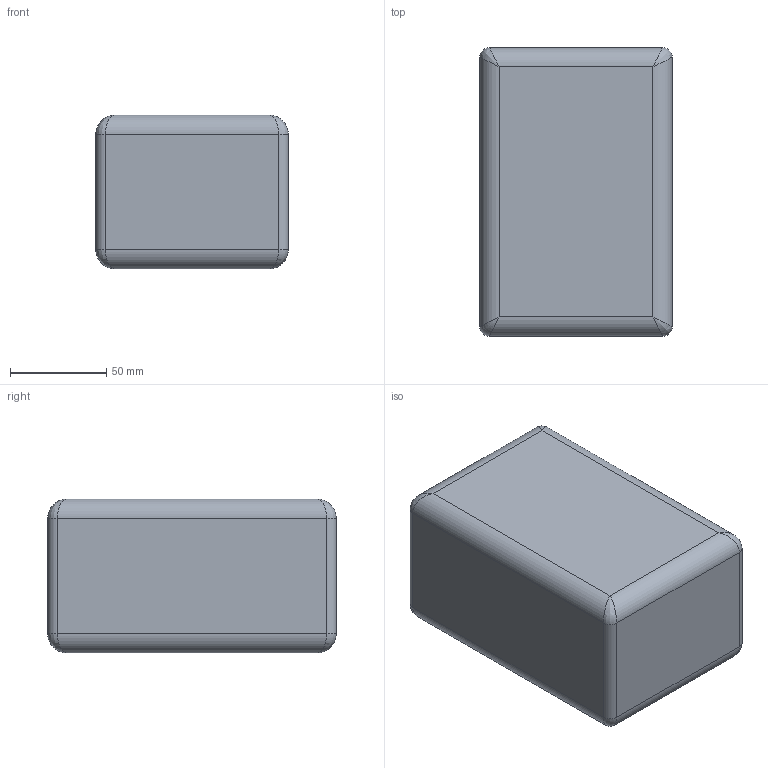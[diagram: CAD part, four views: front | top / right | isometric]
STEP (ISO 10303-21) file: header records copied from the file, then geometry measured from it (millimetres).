
FILE_DESCRIPTION (( 'STEP AP203' ), '1' );
FILE_NAME ('Watertank.STEP', '2021-06-04T13:46:06', ( '' ), ( '' ), 'SwSTEP 2.0', 'SolidWorks 2016', '' );
FILE_SCHEMA (( 'CONFIG_CONTROL_DESIGN' ));
Length unit declared in the file: centimetre
Products named in the file (1): Watertank
Bounding box: 100 x 150 x 80 mm (x, y, z)
Volume: 1177740.6 mm3; surface area: 64939.7 mm2
Topology: 1 solids, 1 shells, 26 faces, 56 edges, 24 vertices
Faces by surface type: cylinder 12, bspline 8, plane 6
Entity records: 1077 total; most frequent: CARTESIAN_POINT 571, ORIENTED_EDGE 96, DIRECTION 78, EDGE_CURVE 48, AXIS2_PLACEMENT_3D 27, EDGE_LOOP 26, FACE_OUTER_BOUND 26, ADVANCED_FACE 26
